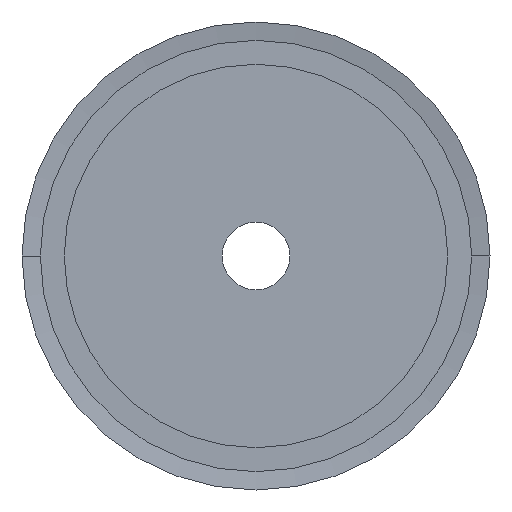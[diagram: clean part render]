
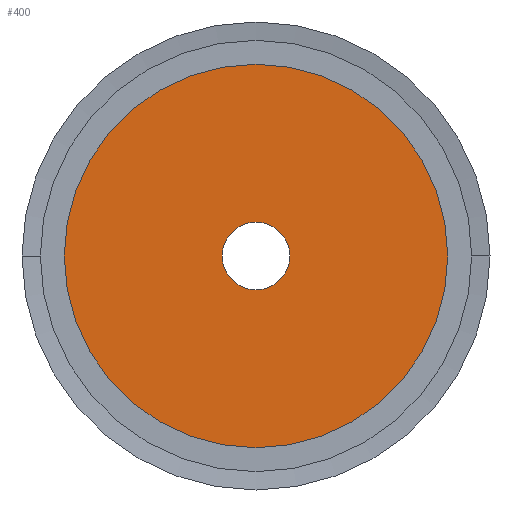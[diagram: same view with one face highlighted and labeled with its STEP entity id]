
A CAD part, left-side view. The second image highlights one B-rep face of the part: STEP entity #400.
In plain terms, the highlighted planar face has unit normal (-1, 0, 0).
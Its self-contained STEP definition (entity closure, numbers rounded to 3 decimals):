
#400 = ADVANCED_FACE( '', ( #1056, #1057 ), #1058, .T. );
#1056 = FACE_BOUND( '', #1713, .T. );
#1057 = FACE_OUTER_BOUND( '', #1714, .T. );
#1058 = PLANE( '', #1715 );
#1713 = EDGE_LOOP( '', ( #4397, #4398 ) );
#1714 = EDGE_LOOP( '', ( #4399, #4400 ) );
#1715 = AXIS2_PLACEMENT_3D( '', #4401, #4402, #4403 );
#4397 = ORIENTED_EDGE( '', *, *, #5253, .F. );
#4398 = ORIENTED_EDGE( '', *, *, #4419, .F. );
#4399 = ORIENTED_EDGE( '', *, *, #4407, .T. );
#4400 = ORIENTED_EDGE( '', *, *, #5258, .T. );
#4401 = CARTESIAN_POINT( '', ( 0., 20., 0. ) );
#4402 = DIRECTION( '', ( -1., 0., 0. ) );
#4403 = DIRECTION( '', ( 0., 1., 0. ) );
#4407 = EDGE_CURVE( '', #5260, #5264, #5266, .T. );
#4419 = EDGE_CURVE( '', #5288, #5284, #5290, .T. );
#5253 = EDGE_CURVE( '', #5284, #5288, #6642, .T. );
#5258 = EDGE_CURVE( '', #5264, #5260, #6647, .T. );
#5260 = VERTEX_POINT( '', #6649 );
#5264 = VERTEX_POINT( '', #6654 );
#5266 = CIRCLE( '', #6657, 34. );
#5284 = VERTEX_POINT( '', #6679 );
#5288 = VERTEX_POINT( '', #6684 );
#5290 = CIRCLE( '', #6687, 6. );
#6642 = CIRCLE( '', #8502, 6. );
#6647 = CIRCLE( '', #8507, 34. );
#6649 = CARTESIAN_POINT( '', ( 0., 34., 0. ) );
#6654 = CARTESIAN_POINT( '', ( 0., -34., 0. ) );
#6657 = AXIS2_PLACEMENT_3D( '', #8513, #8514, #8515 );
#6679 = CARTESIAN_POINT( '', ( 0., 6., 0. ) );
#6684 = CARTESIAN_POINT( '', ( 0., -6., 0. ) );
#6687 = AXIS2_PLACEMENT_3D( '', #8537, #8538, #8539 );
#8502 = AXIS2_PLACEMENT_3D( '', #10113, #10114, #10115 );
#8507 = AXIS2_PLACEMENT_3D( '', #10128, #10129, #10130 );
#8513 = CARTESIAN_POINT( '', ( 0., 0., 0. ) );
#8514 = DIRECTION( '', ( -1., 0., 0. ) );
#8515 = DIRECTION( '', ( 0., 1., 0. ) );
#8537 = CARTESIAN_POINT( '', ( 0., 0., 0. ) );
#8538 = DIRECTION( '', ( -1., 0., 0. ) );
#8539 = DIRECTION( '', ( 0., 1., 0. ) );
#10113 = CARTESIAN_POINT( '', ( 0., 0., 0. ) );
#10114 = DIRECTION( '', ( -1., 0., 0. ) );
#10115 = DIRECTION( '', ( 0., 1., 0. ) );
#10128 = CARTESIAN_POINT( '', ( 0., 0., 0. ) );
#10129 = DIRECTION( '', ( -1., 0., 0. ) );
#10130 = DIRECTION( '', ( 0., 1., 0. ) );
